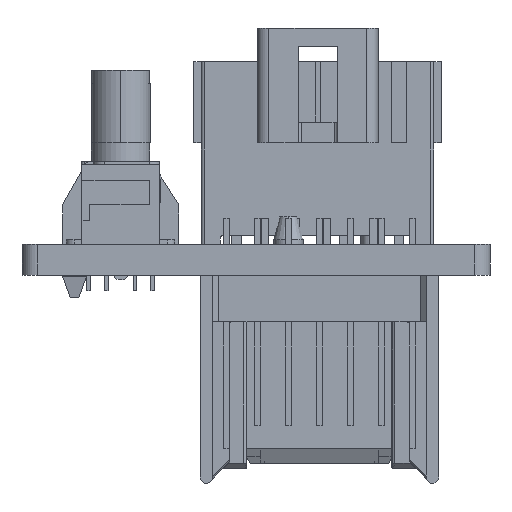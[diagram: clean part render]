
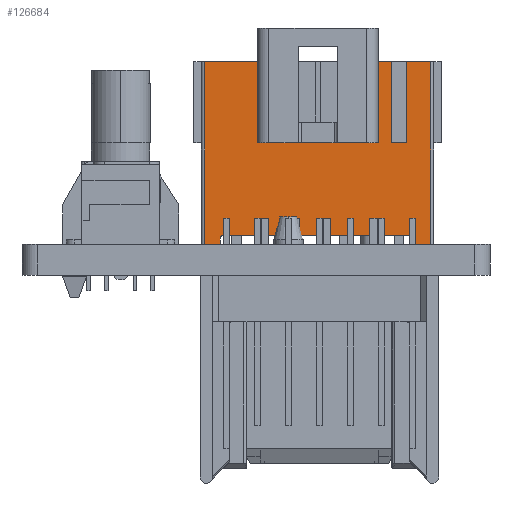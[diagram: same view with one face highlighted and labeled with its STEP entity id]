
A CAD part, front view. The second image highlights one B-rep face of the part: STEP entity #126684.
In plain terms, the highlighted planar face has unit normal (0, -1, 0).
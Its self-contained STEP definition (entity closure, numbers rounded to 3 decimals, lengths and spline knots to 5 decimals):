
#6053=DIRECTION('',(-1.,0.,0.));
#6054=VECTOR('',#6053,0.03937);
#6055=CARTESIAN_POINT('',(0.20433,-0.57047,
0.07874));
#6056=LINE('',#6055,#6054);
#6074=DIRECTION('',(-1.,0.,0.));
#6075=VECTOR('',#6074,0.03937);
#6076=CARTESIAN_POINT('',(-0.3311,-0.57047,
0.07874));
#6077=LINE('',#6076,#6075);
#8415=DIRECTION('',(0.,0.,1.));
#8416=VECTOR('',#8415,0.01378);
#8417=CARTESIAN_POINT('',(0.16496,-0.57047,
0.07874));
#8418=LINE('',#8417,#8416);
#8419=CARTESIAN_POINT('',(0.15512,-0.57047,
0.09252));
#8420=DIRECTION('',(0.,-1.,0.));
#8421=DIRECTION('',(1.,0.,0.));
#8422=AXIS2_PLACEMENT_3D('',#8419,#8420,#8421);
#8424=DIRECTION('',(-1.,0.,0.));
#8425=VECTOR('',#8424,0.47638);
#8426=CARTESIAN_POINT('',(0.15512,-0.57047,
0.10236));
#8427=LINE('',#8426,#8425);
#8428=CARTESIAN_POINT('',(-0.32126,-0.57047,
0.09252));
#8429=DIRECTION('',(0.,-1.,0.));
#8430=DIRECTION('',(0.,0.,1.));
#8431=AXIS2_PLACEMENT_3D('',#8428,#8429,#8430);
#8433=DIRECTION('',(0.,0.,1.));
#8434=VECTOR('',#8433,0.01378);
#8435=CARTESIAN_POINT('',(-0.3311,-0.57047,
0.07874));
#8436=LINE('',#8435,#8434);
#8437=DIRECTION('',(0.,0.,-1.));
#8438=VECTOR('',#8437,0.46457);
#8439=CARTESIAN_POINT('',(-0.37047,-0.57047,
0.54331));
#8440=LINE('',#8439,#8438);
#8441=DIRECTION('',(-1.,0.,0.));
#8442=VECTOR('',#8441,0.13386);
#8443=CARTESIAN_POINT('',(-0.23661,-0.57047,
0.54331));
#8444=LINE('',#8443,#8442);
#8445=DIRECTION('',(0.,0.,-1.));
#8446=VECTOR('',#8445,0.20669);
#8447=CARTESIAN_POINT('',(-0.23661,-0.57047,
0.54331));
#8448=LINE('',#8447,#8446);
#8449=DIRECTION('',(-1.,0.,0.));
#8450=VECTOR('',#8449,0.30709);
#8451=CARTESIAN_POINT('',(0.07047,-0.57047,
0.33661));
#8452=LINE('',#8451,#8450);
#8453=DIRECTION('',(0.,0.,-1.));
#8454=VECTOR('',#8453,0.20669);
#8455=CARTESIAN_POINT('',(0.07047,-0.57047,
0.54331));
#8456=LINE('',#8455,#8454);
#8457=DIRECTION('',(-1.,0.,0.));
#8458=VECTOR('',#8457,0.03346);
#8459=CARTESIAN_POINT('',(0.10394,-0.57047,
0.54331));
#8460=LINE('',#8459,#8458);
#8461=DIRECTION('',(0.,0.,-1.));
#8462=VECTOR('',#8461,0.20669);
#8463=CARTESIAN_POINT('',(0.10394,-0.57047,
0.54331));
#8464=LINE('',#8463,#8462);
#8465=DIRECTION('',(1.,0.,0.));
#8466=VECTOR('',#8465,0.03937);
#8467=CARTESIAN_POINT('',(0.10394,-0.57047,
0.33661));
#8468=LINE('',#8467,#8466);
#8469=DIRECTION('',(0.,0.,-1.));
#8470=VECTOR('',#8469,0.20669);
#8471=CARTESIAN_POINT('',(0.14331,-0.57047,
0.54331));
#8472=LINE('',#8471,#8470);
#8473=DIRECTION('',(-1.,0.,0.));
#8474=VECTOR('',#8473,0.06102);
#8475=CARTESIAN_POINT('',(0.20433,-0.57047,
0.54331));
#8476=LINE('',#8475,#8474);
#8477=DIRECTION('',(0.,0.,1.));
#8478=VECTOR('',#8477,0.46457);
#8479=CARTESIAN_POINT('',(0.20433,-0.57047,
0.07874));
#8480=LINE('',#8479,#8478);
#106063=CARTESIAN_POINT('',(0.07047,-0.57047,
0.54331));
#106064=CARTESIAN_POINT('',(0.07047,-0.57047,
0.33661));
#106065=VERTEX_POINT('',#106063);
#106066=VERTEX_POINT('',#106064);
#106067=CARTESIAN_POINT('',(-0.23661,-0.57047,
0.54331));
#106068=CARTESIAN_POINT('',(-0.23661,-0.57047,
0.33661));
#106069=VERTEX_POINT('',#106067);
#106070=VERTEX_POINT('',#106068);
#106079=CARTESIAN_POINT('',(0.16496,-0.57047,
0.09252));
#106080=CARTESIAN_POINT('',(0.15512,-0.57047,
0.10236));
#106081=VERTEX_POINT('',#106079);
#106082=VERTEX_POINT('',#106080);
#106083=CARTESIAN_POINT('',(-0.32126,-0.57047,
0.10236));
#106084=VERTEX_POINT('',#106083);
#106085=CARTESIAN_POINT('',(-0.3311,-0.57047,
0.09252));
#106086=VERTEX_POINT('',#106085);
#106281=CARTESIAN_POINT('',(0.14331,-0.57047,
0.54331));
#106282=CARTESIAN_POINT('',(0.14331,-0.57047,
0.33661));
#106283=VERTEX_POINT('',#106281);
#106284=VERTEX_POINT('',#106282);
#106285=CARTESIAN_POINT('',(0.10394,-0.57047,
0.54331));
#106286=CARTESIAN_POINT('',(0.10394,-0.57047,
0.33661));
#106287=VERTEX_POINT('',#106285);
#106288=VERTEX_POINT('',#106286);
#107000=CARTESIAN_POINT('',(0.20433,-0.57047,
0.54331));
#107002=VERTEX_POINT('',#107000);
#107009=CARTESIAN_POINT('',(-0.37047,-0.57047,
0.54331));
#107011=VERTEX_POINT('',#107009);
#107673=CARTESIAN_POINT('',(0.20433,-0.57047,
0.07874));
#107674=CARTESIAN_POINT('',(0.16496,-0.57047,
0.07874));
#107675=VERTEX_POINT('',#107673);
#107676=VERTEX_POINT('',#107674);
#107677=CARTESIAN_POINT('',(-0.3311,-0.57047,
0.07874));
#107678=CARTESIAN_POINT('',(-0.37047,-0.57047,
0.07874));
#107679=VERTEX_POINT('',#107677);
#107680=VERTEX_POINT('',#107678);
#126646=CARTESIAN_POINT('',(-0.08307,-0.57047,
0.31102));
#126647=DIRECTION('',(0.,-1.,0.));
#126648=DIRECTION('',(-1.,0.,0.));
#126649=AXIS2_PLACEMENT_3D('',#126646,#126647,#126648);
#126650=PLANE('',#126649);
#126651=ORIENTED_EDGE('',*,*,#124855,.T.);
#126652=ORIENTED_EDGE('',*,*,#126628,.T.);
#126653=ORIENTED_EDGE('',*,*,#126614,.T.);
#126654=ORIENTED_EDGE('',*,*,#126119,.T.);
#126656=ORIENTED_EDGE('',*,*,#126655,.T.);
#126658=ORIENTED_EDGE('',*,*,#126657,.F.);
#126659=ORIENTED_EDGE('',*,*,#124867,.T.);
#126661=ORIENTED_EDGE('',*,*,#126660,.F.);
#126663=ORIENTED_EDGE('',*,*,#126662,.F.);
#126665=ORIENTED_EDGE('',*,*,#126664,.T.);
#126667=ORIENTED_EDGE('',*,*,#126666,.F.);
#126669=ORIENTED_EDGE('',*,*,#126668,.F.);
#126671=ORIENTED_EDGE('',*,*,#126670,.F.);
#126673=ORIENTED_EDGE('',*,*,#126672,.T.);
#126675=ORIENTED_EDGE('',*,*,#126674,.T.);
#126677=ORIENTED_EDGE('',*,*,#126676,.F.);
#126679=ORIENTED_EDGE('',*,*,#126678,.F.);
#126681=ORIENTED_EDGE('',*,*,#126680,.F.);
#126682=EDGE_LOOP('',(#126651,#126652,#126653,#126654,#126656,#126658,#126659,
#126661,#126663,#126665,#126667,#126669,#126671,#126673,#126675,#126677,#126679,
#126681));
#126683=FACE_OUTER_BOUND('',#126682,.F.);
#126684=ADVANCED_FACE('',(#126683),#126650,.T.);
#8423=CIRCLE('',#8422,0.00984);
#8432=CIRCLE('',#8431,0.00984);
#124855=EDGE_CURVE('',#107675,#107676,#6056,.T.);
#124867=EDGE_CURVE('',#107679,#107680,#6077,.T.);
#126119=EDGE_CURVE('',#106082,#106084,#8427,.T.);
#126614=EDGE_CURVE('',#106081,#106082,#8423,.T.);
#126628=EDGE_CURVE('',#107676,#106081,#8418,.T.);
#126655=EDGE_CURVE('',#106084,#106086,#8432,.T.);
#126657=EDGE_CURVE('',#107679,#106086,#8436,.T.);
#126660=EDGE_CURVE('',#107011,#107680,#8440,.T.);
#126662=EDGE_CURVE('',#106069,#107011,#8444,.T.);
#126664=EDGE_CURVE('',#106069,#106070,#8448,.T.);
#126666=EDGE_CURVE('',#106066,#106070,#8452,.T.);
#126668=EDGE_CURVE('',#106065,#106066,#8456,.T.);
#126670=EDGE_CURVE('',#106287,#106065,#8460,.T.);
#126672=EDGE_CURVE('',#106287,#106288,#8464,.T.);
#126674=EDGE_CURVE('',#106288,#106284,#8468,.T.);
#126676=EDGE_CURVE('',#106283,#106284,#8472,.T.);
#126678=EDGE_CURVE('',#107002,#106283,#8476,.T.);
#126680=EDGE_CURVE('',#107675,#107002,#8480,.T.);
